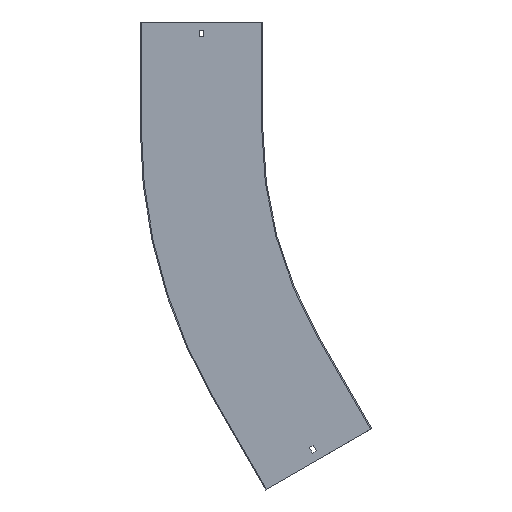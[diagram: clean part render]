
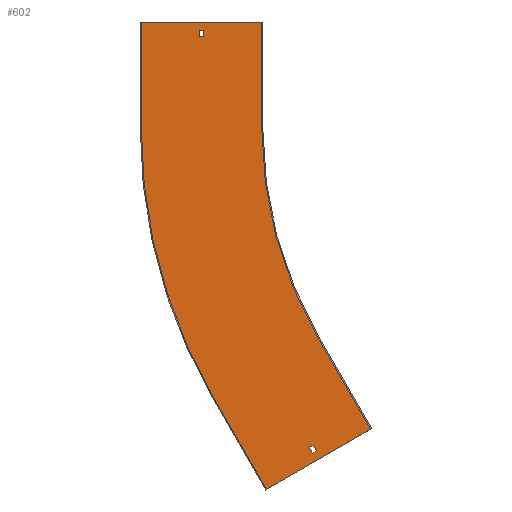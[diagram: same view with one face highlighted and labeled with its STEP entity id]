
A CAD part, front view. The second image highlights one B-rep face of the part: STEP entity #602.
In plain terms, the highlighted planar face has unit normal (0, -1, 0).
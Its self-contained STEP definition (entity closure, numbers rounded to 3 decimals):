
#1 = DIRECTION ( 'NONE',  ( 0., 0., -1. ) ) ;
#8 = LINE ( 'NONE', #324, #660 ) ;
#13 = ORIENTED_EDGE ( 'NONE', *, *, #583, .F. ) ;
#15 = CARTESIAN_POINT ( 'NONE',  ( -590., -1.5, 0. ) ) ;
#19 = VECTOR ( 'NONE', #245, 1000. ) ;
#24 = CARTESIAN_POINT ( 'NONE',  ( -435.955, -1.5, -424.904 ) ) ;
#26 = LINE ( 'NONE', #370, #216 ) ;
#36 = LINE ( 'NONE', #485, #534 ) ;
#38 = LINE ( 'NONE', #576, #829 ) ;
#39 = CARTESIAN_POINT ( 'NONE',  ( -678.25, -1.5, 129. ) ) ;
#43 = LINE ( 'NONE', #850, #19 ) ;
#49 = CARTESIAN_POINT ( 'NONE',  ( -671.75, -1.5, 129. ) ) ;
#61 = VECTOR ( 'NONE', #739, 1000. ) ;
#73 = LINE ( 'NONE', #196, #61 ) ;
#79 = ORIENTED_EDGE ( 'NONE', *, *, #89, .F. ) ;
#85 = VECTOR ( 'NONE', #839, 1000. ) ;
#89 = EDGE_CURVE ( 'NONE', #815, #143, #456, .T. ) ;
#90 = VECTOR ( 'NONE', #856, 1000. ) ;
#91 = FACE_BOUND ( 'NONE', #123, .T. ) ;
#94 = CARTESIAN_POINT ( 'NONE',  ( -434.656, -1.5, -424.154 ) ) ;
#97 = CARTESIAN_POINT ( 'NONE',  ( -581.753, -1.5, -335.875 ) ) ;
#100 = VECTOR ( 'NONE', #432, 1000. ) ;
#102 = DIRECTION ( 'NONE',  ( 1., 0., 0. ) ) ;
#123 = EDGE_LOOP ( 'NONE', ( #336, #197, #319, #692 ) ) ;
#137 = DIRECTION ( 'NONE',  ( 0., -1., 0. ) ) ;
#143 = VERTEX_POINT ( 'NONE', #523 ) ;
#148 = CARTESIAN_POINT ( 'NONE',  ( 64.5, -1.5, -111.717 ) ) ;
#152 = LINE ( 'NONE', #622, #85 ) ;
#161 = VERTEX_POINT ( 'NONE', #380 ) ;
#162 = LINE ( 'NONE', #94, #100 ) ;
#165 = ORIENTED_EDGE ( 'NONE', *, *, #323, .F. ) ;
#166 = FACE_BOUND ( 'NONE', #206, .T. ) ;
#181 = CARTESIAN_POINT ( 'NONE',  ( -760., -1.5, 0. ) ) ;
#196 = CARTESIAN_POINT ( 'NONE',  ( 0., -1.5, 138. ) ) ;
#197 = ORIENTED_EDGE ( 'NONE', *, *, #490, .T. ) ;
#202 = VERTEX_POINT ( 'NONE', #209 ) ;
#203 = CIRCLE ( 'NONE', #398, 590. ) ;
#204 = DIRECTION ( 'NONE',  ( 0.5, 0., -0.866 ) ) ;
#206 = EDGE_LOOP ( 'NONE', ( #401, #360, #613, #810 ) ) ;
#209 = CARTESIAN_POINT ( 'NONE',  ( -517.253, -1.5, -447.592 ) ) ;
#216 = VECTOR ( 'NONE', #349, 1000. ) ;
#226 = CARTESIAN_POINT ( 'NONE',  ( -678.25, -1.5, 0. ) ) ;
#228 = VERTEX_POINT ( 'NONE', #15 ) ;
#241 = AXIS2_PLACEMENT_3D ( 'NONE', #358, #821, #484 ) ;
#245 = DIRECTION ( 'NONE',  ( 0.866, 0., 0.5 ) ) ;
#259 = ORIENTED_EDGE ( 'NONE', *, *, #688, .F. ) ;
#270 = CARTESIAN_POINT ( 'NONE',  ( -518.382, -1.5, -458.637 ) ) ;
#276 = EDGE_CURVE ( 'NONE', #339, #654, #427, .T. ) ;
#279 = CARTESIAN_POINT ( 'NONE',  ( 0., -1.5, 0. ) ) ;
#297 = EDGE_CURVE ( 'NONE', #350, #339, #26, .T. ) ;
#304 = LINE ( 'NONE', #97, #536 ) ;
#318 = CARTESIAN_POINT ( 'NONE',  ( -760., -1.5, 0. ) ) ;
#319 = ORIENTED_EDGE ( 'NONE', *, *, #297, .T. ) ;
#323 = EDGE_CURVE ( 'NONE', #434, #228, #36, .T. ) ;
#324 = CARTESIAN_POINT ( 'NONE',  ( -510.955, -1.5, -295. ) ) ;
#328 = EDGE_CURVE ( 'NONE', #631, #161, #152, .T. ) ;
#336 = ORIENTED_EDGE ( 'NONE', *, *, #568, .T. ) ;
#339 = VERTEX_POINT ( 'NONE', #39 ) ;
#348 = FACE_OUTER_BOUND ( 'NONE', #696, .T. ) ;
#349 = DIRECTION ( 'NONE',  ( -1., 0., 0. ) ) ;
#350 = VERTEX_POINT ( 'NONE', #49 ) ;
#354 = LINE ( 'NONE', #148, #562 ) ;
#358 = CARTESIAN_POINT ( 'NONE',  ( 0., -1.5, 0. ) ) ;
#360 = ORIENTED_EDGE ( 'NONE', *, *, #790, .F. ) ;
#362 = CARTESIAN_POINT ( 'NONE',  ( 0., -1.5, 0. ) ) ;
#366 = VERTEX_POINT ( 'NONE', #446 ) ;
#370 = CARTESIAN_POINT ( 'NONE',  ( 0., -1.5, 129. ) ) ;
#377 = ORIENTED_EDGE ( 'NONE', *, *, #698, .F. ) ;
#380 = CARTESIAN_POINT ( 'NONE',  ( -658.179, -1.5, -380. ) ) ;
#391 = ORIENTED_EDGE ( 'NONE', *, *, #328, .F. ) ;
#392 = LINE ( 'NONE', #659, #647 ) ;
#397 = DIRECTION ( 'NONE',  ( 0.5, 0., -0.866 ) ) ;
#398 = AXIS2_PLACEMENT_3D ( 'NONE', #279, #137, #406 ) ;
#401 = ORIENTED_EDGE ( 'NONE', *, *, #733, .F. ) ;
#406 = DIRECTION ( 'NONE',  ( 0., 0., -1. ) ) ;
#422 = CARTESIAN_POINT ( 'NONE',  ( -678.25, -1.5, 138. ) ) ;
#427 = LINE ( 'NONE', #226, #607 ) ;
#432 = DIRECTION ( 'NONE',  ( -0.866, 0., -0.5 ) ) ;
#434 = VERTEX_POINT ( 'NONE', #667 ) ;
#446 = CARTESIAN_POINT ( 'NONE',  ( -522.882, -1.5, -450.842 ) ) ;
#456 = LINE ( 'NONE', #318, #90 ) ;
#462 = CARTESIAN_POINT ( 'NONE',  ( -510.955, -1.5, -295. ) ) ;
#464 = ORIENTED_EDGE ( 'NONE', *, *, #722, .F. ) ;
#479 = EDGE_CURVE ( 'NONE', #545, #643, #8, .T. ) ;
#484 = DIRECTION ( 'NONE',  ( 0., 0., -1. ) ) ;
#485 = CARTESIAN_POINT ( 'NONE',  ( -590., -1.5, 150. ) ) ;
#490 = EDGE_CURVE ( 'NONE', #756, #350, #809, .T. ) ;
#498 = VERTEX_POINT ( 'NONE', #530 ) ;
#510 = VERTEX_POINT ( 'NONE', #270 ) ;
#523 = CARTESIAN_POINT ( 'NONE',  ( -760., -1.5, 150. ) ) ;
#530 = CARTESIAN_POINT ( 'NONE',  ( -512.753, -1.5, -455.387 ) ) ;
#534 = VECTOR ( 'NONE', #751, 1000. ) ;
#536 = VECTOR ( 'NONE', #640, 1000. ) ;
#545 = VERTEX_POINT ( 'NONE', #462 ) ;
#553 = DIRECTION ( 'NONE',  ( -0.866, 0., -0.5 ) ) ;
#562 = VECTOR ( 'NONE', #553, 1000. ) ;
#568 = EDGE_CURVE ( 'NONE', #654, #756, #73, .T. ) ;
#576 = CARTESIAN_POINT ( 'NONE',  ( -761.5, -1.5, 150. ) ) ;
#583 = EDGE_CURVE ( 'NONE', #228, #545, #203, .T. ) ;
#595 = CIRCLE ( 'NONE', #798, 760. ) ;
#602 = ADVANCED_FACE ( 'NONE', ( #166, #348, #91 ), #811, .T. ) ;
#607 = VECTOR ( 'NONE', #825, 1000. ) ;
#610 = CARTESIAN_POINT ( 'NONE',  ( -671.75, -1.5, 0. ) ) ;
#613 = ORIENTED_EDGE ( 'NONE', *, *, #857, .F. ) ;
#622 = CARTESIAN_POINT ( 'NONE',  ( -583.179, -1.5, -509.904 ) ) ;
#627 = DIRECTION ( 'NONE',  ( 0., 0., -1. ) ) ;
#631 = VERTEX_POINT ( 'NONE', #750 ) ;
#640 = DIRECTION ( 'NONE',  ( -0.5, 0., 0.866 ) ) ;
#643 = VERTEX_POINT ( 'NONE', #24 ) ;
#647 = VECTOR ( 'NONE', #204, 1000. ) ;
#654 = VERTEX_POINT ( 'NONE', #422 ) ;
#659 = CARTESIAN_POINT ( 'NONE',  ( -587.382, -1.5, -339.125 ) ) ;
#660 = VECTOR ( 'NONE', #397, 1000. ) ;
#667 = CARTESIAN_POINT ( 'NONE',  ( -590., -1.5, 150. ) ) ;
#671 = VECTOR ( 'NONE', #1, 1000. ) ;
#677 = EDGE_CURVE ( 'NONE', #202, #366, #354, .T. ) ;
#688 = EDGE_CURVE ( 'NONE', #643, #631, #162, .T. ) ;
#692 = ORIENTED_EDGE ( 'NONE', *, *, #276, .T. ) ;
#694 = DIRECTION ( 'NONE',  ( 0., 1., 0. ) ) ;
#696 = EDGE_LOOP ( 'NONE', ( #464, #79, #377, #391, #259, #734, #13, #165 ) ) ;
#698 = EDGE_CURVE ( 'NONE', #161, #815, #595, .T. ) ;
#722 = EDGE_CURVE ( 'NONE', #143, #434, #38, .T. ) ;
#733 = EDGE_CURVE ( 'NONE', #498, #202, #304, .T. ) ;
#734 = ORIENTED_EDGE ( 'NONE', *, *, #479, .F. ) ;
#739 = DIRECTION ( 'NONE',  ( 1., 0., 0. ) ) ;
#750 = CARTESIAN_POINT ( 'NONE',  ( -583.179, -1.5, -509.904 ) ) ;
#751 = DIRECTION ( 'NONE',  ( 0., 0., -1. ) ) ;
#756 = VERTEX_POINT ( 'NONE', #854 ) ;
#790 = EDGE_CURVE ( 'NONE', #510, #498, #43, .T. ) ;
#798 = AXIS2_PLACEMENT_3D ( 'NONE', #362, #694, #627 ) ;
#809 = LINE ( 'NONE', #610, #671 ) ;
#810 = ORIENTED_EDGE ( 'NONE', *, *, #677, .F. ) ;
#811 = PLANE ( 'NONE',  #241 ) ;
#815 = VERTEX_POINT ( 'NONE', #181 ) ;
#821 = DIRECTION ( 'NONE',  ( 0., -1., 0. ) ) ;
#825 = DIRECTION ( 'NONE',  ( 0., 0., 1. ) ) ;
#829 = VECTOR ( 'NONE', #102, 1000. ) ;
#839 = DIRECTION ( 'NONE',  ( -0.5, 0., 0.866 ) ) ;
#850 = CARTESIAN_POINT ( 'NONE',  ( 69., -1.5, -119.512 ) ) ;
#854 = CARTESIAN_POINT ( 'NONE',  ( -671.75, -1.5, 138. ) ) ;
#856 = DIRECTION ( 'NONE',  ( 0., 0., 1. ) ) ;
#857 = EDGE_CURVE ( 'NONE', #366, #510, #392, .T. ) ;
